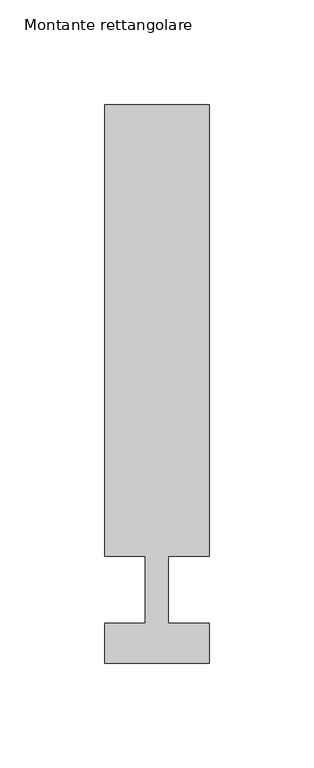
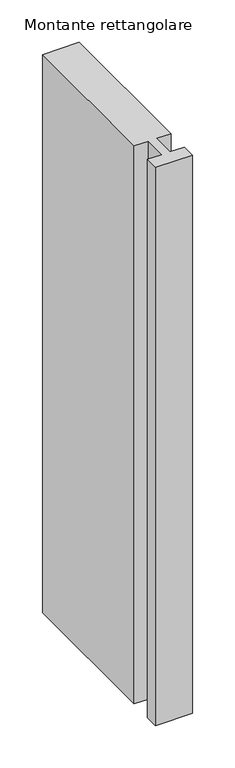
"""IFC4 building model written with IfcOpenShell, lengths in millimetres: member geometry, Montante rettangolare : Aluk_SL50_Montante K735_vetro 32."""

from ifc_helpers import new_model, si_unit, frame, origin, place, context, project, spatial, polyline, outline, extrude, source, transform, mapped, element, save


def montante_rettangolare_05e2e7f5(model_context):
    return source(origin(), model_context, "Body", "SweptSolid", [
        extrude(outline(polyline([(25.0, 232.0), (25.0, 16.0), (5.5, 16.0), (5.5, -16.0048274), (24.9698705, -16.0048274), (24.9698705, -35.0019341), (-25.0442424, -35.0019341), (-25.0442424, -16.0048274), (-5.5, -16.0048274), (-5.5, 16.0), (-25.0, 16.0), (-25.0, 232.0), (25.0, 232.0)])), frame((0.0, 0.0, -802.2), z_axis=(0.0, 0.0, 1.0), x_axis=(1.0, 0.0, 0.0)), (0.0, 0.0, 1.0), 802.2),
    ])


if __name__ == "__main__":
    model = new_model("IFC4")
    model_context = context("Model", 3, world=origin())
    ifc_project = project(units=[si_unit("LENGTHUNIT", "METRE", prefix="MILLI")], contexts=[model_context])
    site = spatial("IfcSite", under=ifc_project)
    building = spatial("IfcBuilding", under=site)
    placement = place(None, origin())
    montante_rettangolare_shape = montante_rettangolare_05e2e7f5(model_context)
    element("IfcMember", 1, ObjectType="Montante rettangolare : Aluk_SL50_Montante K735_vetro 32", at=placement, inside=building, context=model_context, shape_type="MappedRepresentation", body=[
        mapped(montante_rettangolare_shape, transform((0.0, 0.0, 0.0), x_axis=(1.0, 0.0, 0.0), y_axis=(0.0, 1.0, 0.0), z_axis=(0.0, 0.0, 1.0))),
    ])
    save(model, "model.ifc")
